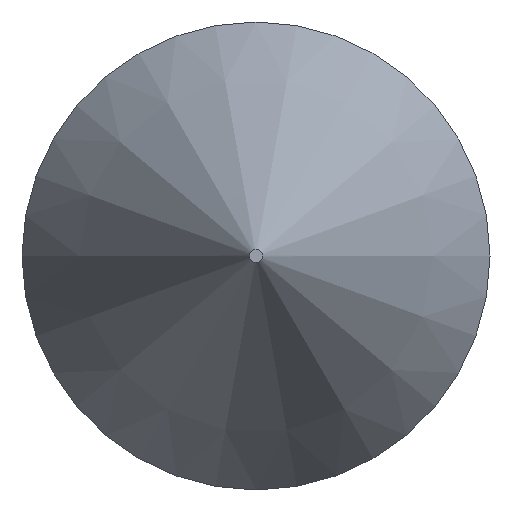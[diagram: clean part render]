
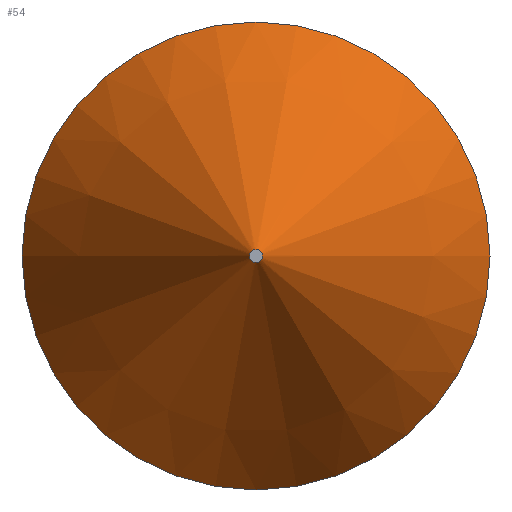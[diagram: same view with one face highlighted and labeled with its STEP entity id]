
A CAD part, left-side view. The second image highlights one B-rep face of the part: STEP entity #54.
In plain terms, the highlighted conical face has half-angle 30 degrees and reference radius 2.313 mm.
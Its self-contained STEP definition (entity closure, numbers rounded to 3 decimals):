
#16=LINE('',#115,#18);
#18=VECTOR('',#101,2.313);
#20=CONICAL_SURFACE('',#83,2.313,0.524);
#23=FACE_OUTER_BOUND('',#27,.T.);
#27=EDGE_LOOP('',(#45,#46,#47,#48));
#30=CIRCLE('',#82,4.5);
#31=CIRCLE('',#84,0.125);
#33=VERTEX_POINT('',#109);
#34=VERTEX_POINT('',#113);
#36=EDGE_CURVE('',#33,#33,#30,.T.);
#38=EDGE_CURVE('',#34,#34,#31,.T.);
#39=EDGE_CURVE('',#34,#33,#16,.T.);
#45=ORIENTED_EDGE('',*,*,#38,.F.);
#46=ORIENTED_EDGE('',*,*,#39,.T.);
#47=ORIENTED_EDGE('',*,*,#36,.T.);
#48=ORIENTED_EDGE('',*,*,#39,.F.);
#54=ADVANCED_FACE('',(#23),#20,.T.);
#82=AXIS2_PLACEMENT_3D('',#110,#94,#95);
#83=AXIS2_PLACEMENT_3D('',#112,#97,#98);
#84=AXIS2_PLACEMENT_3D('',#114,#99,#100);
#94=DIRECTION('center_axis',(-1.,0.,0.));
#95=DIRECTION('ref_axis',(0.,-1.,0.));
#97=DIRECTION('center_axis',(1.,0.,0.));
#98=DIRECTION('ref_axis',(0.,-1.,0.));
#99=DIRECTION('center_axis',(-1.,0.,0.));
#100=DIRECTION('ref_axis',(0.,-1.,0.));
#101=DIRECTION('',(0.866,0.5,0.));
#109=CARTESIAN_POINT('',(-23.922,4.5,0.));
#110=CARTESIAN_POINT('Origin',(-23.922,0.,0.));
#112=CARTESIAN_POINT('Origin',(-27.711,0.,0.));
#113=CARTESIAN_POINT('',(-31.5,0.125,0.));
#114=CARTESIAN_POINT('Origin',(-31.5,0.,0.));
#115=CARTESIAN_POINT('',(-27.711,2.313,0.));
